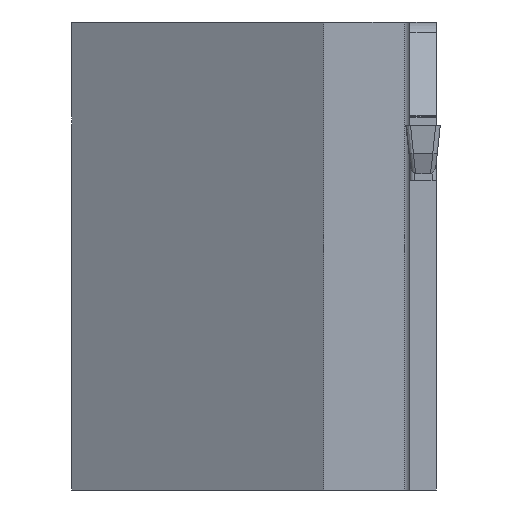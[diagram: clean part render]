
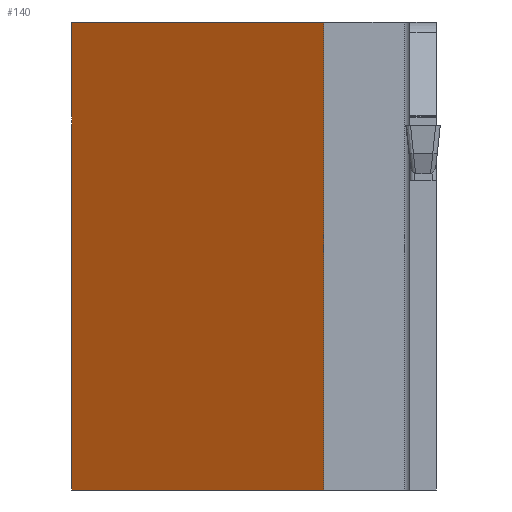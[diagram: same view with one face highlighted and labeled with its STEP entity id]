
A CAD part, left-side view. The second image highlights one B-rep face of the part: STEP entity #140.
In plain terms, the highlighted planar face has unit normal (-0.866, 0.5, 0).
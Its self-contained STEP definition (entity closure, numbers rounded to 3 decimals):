
#140=ADVANCED_FACE('',(#235),#195,.F.);
#195=PLANE('',#1124);
#235=FACE_OUTER_BOUND('',#290,.T.);
#290=EDGE_LOOP('',(#399,#400,#401,#402));
#399=ORIENTED_EDGE('',*,*,#759,.T.);
#400=ORIENTED_EDGE('',*,*,#765,.F.);
#401=ORIENTED_EDGE('',*,*,#777,.F.);
#402=ORIENTED_EDGE('',*,*,#776,.T.);
#663=VERTEX_POINT('',#1498);
#664=VERTEX_POINT('',#1500);
#669=VERTEX_POINT('',#1511);
#676=VERTEX_POINT('',#1530);
#759=EDGE_CURVE('',#664,#663,#902,.T.);
#765=EDGE_CURVE('',#669,#663,#907,.T.);
#776=EDGE_CURVE('',#676,#664,#916,.T.);
#777=EDGE_CURVE('',#676,#669,#917,.T.);
#902=LINE('',#1499,#1013);
#907=LINE('',#1512,#1018);
#916=LINE('',#1532,#1027);
#917=LINE('',#1534,#1028);
#1013=VECTOR('',#1216,1.);
#1018=VECTOR('',#1225,1.);
#1027=VECTOR('',#1242,1.);
#1028=VECTOR('',#1245,1.);
#1124=AXIS2_PLACEMENT_3D('',#1535,#1246,#1247);
#1216=DIRECTION('',(0.5,0.866,0.));
#1225=DIRECTION('',(0.,0.,1.));
#1242=DIRECTION('',(0.,0.,1.));
#1245=DIRECTION('',(0.5,0.866,0.));
#1246=DIRECTION('',(0.866,-0.5,0.));
#1247=DIRECTION('',(0.5,0.866,0.));
#1498=CARTESIAN_POINT('',(30.453,30.6,9.));
#1499=CARTESIAN_POINT('',(17.78,8.65,9.));
#1500=CARTESIAN_POINT('',(17.78,8.65,9.));
#1511=CARTESIAN_POINT('',(30.453,30.6,-31.75));
#1512=CARTESIAN_POINT('',(30.453,30.6,-31.75));
#1530=CARTESIAN_POINT('',(17.78,8.65,-31.75));
#1532=CARTESIAN_POINT('',(17.78,8.65,-31.75));
#1534=CARTESIAN_POINT('',(17.78,8.65,-31.75));
#1535=CARTESIAN_POINT('',(17.78,8.65,-31.75));
